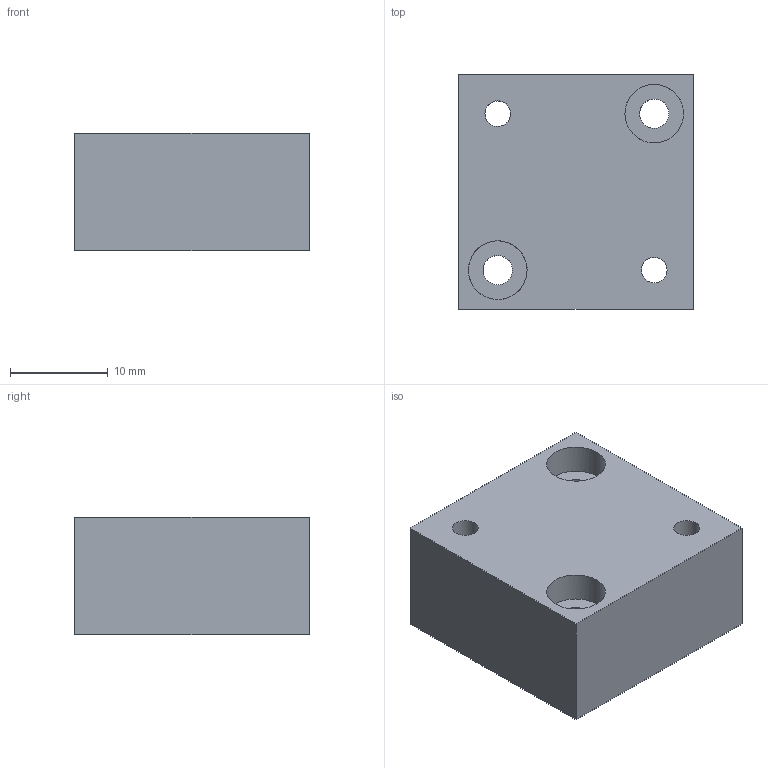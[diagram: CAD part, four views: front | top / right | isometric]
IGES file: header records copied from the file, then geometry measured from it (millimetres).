
Global section: file name: 305_90_00; native system: Autodesk Inventor 2014; preprocessor: unknown; organization: Pneumax S.p.A.; date: 20161003.120612; units: millimetre
Bounding box: 24 x 24 x 12 mm (x, y, z)
Volume: 6253.4 mm3; surface area: 2943.7 mm2
Topology: 1 solids, 1 shells, 20 faces, 50 edges, 35 vertices
Faces by surface type: bspline 20
